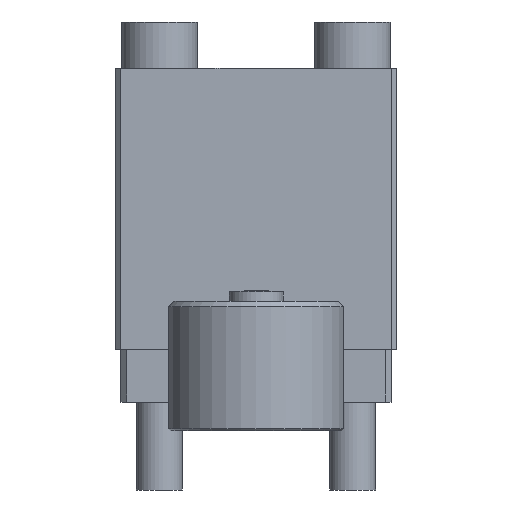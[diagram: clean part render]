
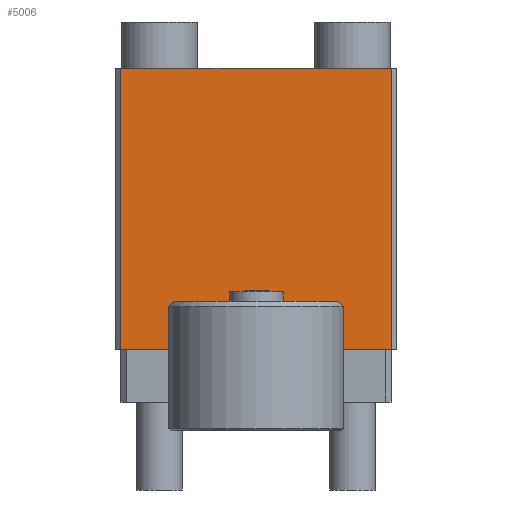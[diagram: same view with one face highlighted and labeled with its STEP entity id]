
A CAD part, left-side view. The second image highlights one B-rep face of the part: STEP entity #5006.
In plain terms, the highlighted planar face has unit normal (-1, 0, 0).
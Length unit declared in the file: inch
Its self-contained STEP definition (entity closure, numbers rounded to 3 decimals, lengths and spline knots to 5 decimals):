
#5006 = ADVANCED_FACE( '', ( #10219 ), #10220, .F. );
#10219 = FACE_OUTER_BOUND( '', #15629, .T. );
#10220 = PLANE( '', #15630 );
#15629 = EDGE_LOOP( '', ( #31340, #31341, #31342, #31343 ) );
#15630 = AXIS2_PLACEMENT_3D( '', #31344, #31345, #31346 );
#31340 = ORIENTED_EDGE( '', *, *, #33492, .F. );
#31341 = ORIENTED_EDGE( '', *, *, #33317, .F. );
#31342 = ORIENTED_EDGE( '', *, *, #34464, .F. );
#31343 = ORIENTED_EDGE( '', *, *, #38612, .T. );
#31344 = CARTESIAN_POINT( '', ( 2.74869, 0.48, 1.28963 ) );
#31345 = DIRECTION( '', ( 1., 0., 0. ) );
#31346 = DIRECTION( '', ( 0., 0., -1. ) );
#33317 = EDGE_CURVE( '', #40499, #40495, #40501, .T. );
#33492 = EDGE_CURVE( '', #40495, #40774, #40775, .T. );
#34464 = EDGE_CURVE( '', #42490, #40499, #42492, .T. );
#38612 = EDGE_CURVE( '', #42490, #40774, #48267, .T. );
#40495 = VERTEX_POINT( '', #50586 );
#40499 = VERTEX_POINT( '', #50592 );
#40501 = LINE( '', #50595, #50596 );
#40774 = VERTEX_POINT( '', #50974 );
#40775 = LINE( '', #50975, #50976 );
#42490 = VERTEX_POINT( '', #53139 );
#42492 = LINE( '', #53142, #53143 );
#48267 = LINE( '', #61167, #61168 );
#50586 = CARTESIAN_POINT( '', ( 2.74869, -0.48, 0.28963 ) );
#50592 = CARTESIAN_POINT( '', ( 2.74869, -0.48, 1.28963 ) );
#50595 = CARTESIAN_POINT( '', ( 2.74869, -0.48, 1.28963 ) );
#50596 = VECTOR( '', #62801, 39.37008 );
#50974 = CARTESIAN_POINT( '', ( 2.74869, 0.48, 0.28963 ) );
#50975 = CARTESIAN_POINT( '', ( 2.74869, 0.48, 0.28963 ) );
#50976 = VECTOR( '', #63021, 39.37008 );
#53139 = CARTESIAN_POINT( '', ( 2.74869, 0.48, 1.28963 ) );
#53142 = CARTESIAN_POINT( '', ( 2.74869, 0., 1.28963 ) );
#53143 = VECTOR( '', #64771, 39.37008 );
#61167 = CARTESIAN_POINT( '', ( 2.74869, 0.48, 1.28963 ) );
#61168 = VECTOR( '', #69939, 39.37008 );
#62801 = DIRECTION( '', ( 0., 0., -1. ) );
#63021 = DIRECTION( '', ( 0., 1., 0. ) );
#64771 = DIRECTION( '', ( 0., -1., 0. ) );
#69939 = DIRECTION( '', ( 0., 0., -1. ) );
